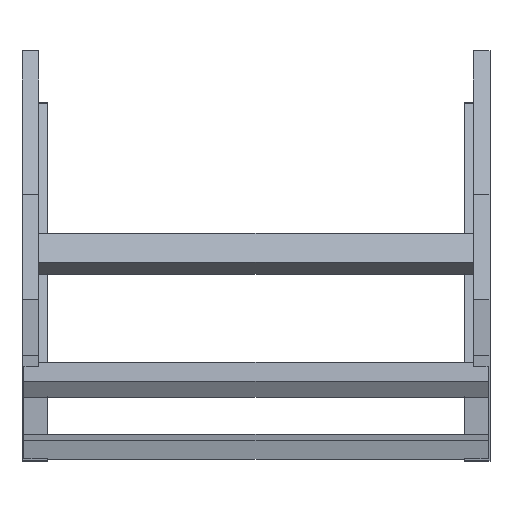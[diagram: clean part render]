
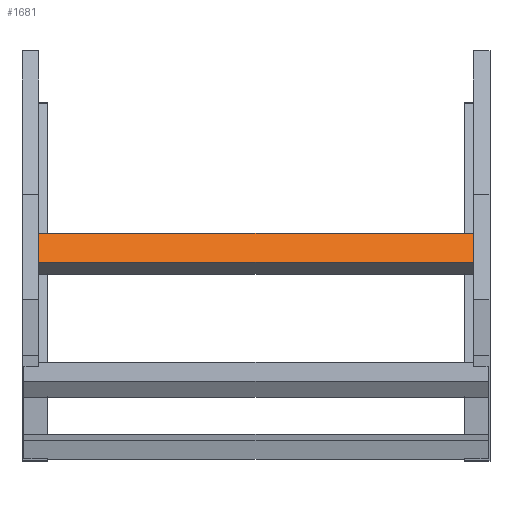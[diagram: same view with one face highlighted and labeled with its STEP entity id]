
A CAD part, top view. The second image highlights one B-rep face of the part: STEP entity #1681.
In plain terms, the highlighted planar face has unit normal (0, 0.643, 0.766) as drawn and (0, 1, 0) by its records, which use the part's own axes.
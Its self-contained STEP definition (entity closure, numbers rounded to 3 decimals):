
#11 = LINE ( 'NONE', #1463, #519 ) ;
#64 = DIRECTION ( 'NONE',  ( 0., -1., 0. ) ) ;
#134 = EDGE_CURVE ( 'NONE', #428, #823, #1045, .T. ) ;
#143 = CARTESIAN_POINT ( 'NONE',  ( 248., 20., 20.25 ) ) ;
#216 = CARTESIAN_POINT ( 'NONE',  ( 248., 20., 20.25 ) ) ;
#266 = DIRECTION ( 'NONE',  ( 0., 0., 1. ) ) ;
#273 = VECTOR ( 'NONE', #937, 1000. ) ;
#330 = DIRECTION ( 'NONE',  ( 0., 0., -1. ) ) ;
#385 = VECTOR ( 'NONE', #266, 1000. ) ;
#406 = EDGE_LOOP ( 'NONE', ( #1626, #1404, #947, #1428 ) ) ;
#428 = VERTEX_POINT ( 'NONE', #1173 ) ;
#446 = EDGE_CURVE ( 'NONE', #692, #428, #1424, .T. ) ;
#470 = FACE_OUTER_BOUND ( 'NONE', #406, .T. ) ;
#480 = AXIS2_PLACEMENT_3D ( 'NONE', #216, #64, #330 ) ;
#499 = VERTEX_POINT ( 'NONE', #143 ) ;
#510 = EDGE_CURVE ( 'NONE', #499, #823, #11, .T. ) ;
#519 = VECTOR ( 'NONE', #1211, 1000. ) ;
#692 = VERTEX_POINT ( 'NONE', #1106 ) ;
#823 = VERTEX_POINT ( 'NONE', #1548 ) ;
#857 = DIRECTION ( 'NONE',  ( -1., 0., 0. ) ) ;
#903 = CARTESIAN_POINT ( 'NONE',  ( -248., 20., 20.25 ) ) ;
#913 = LINE ( 'NONE', #1315, #385 ) ;
#937 = DIRECTION ( 'NONE',  ( 0., 0., 1. ) ) ;
#947 = ORIENTED_EDGE ( 'NONE', *, *, #1297, .F. ) ;
#1045 = LINE ( 'NONE', #903, #273 ) ;
#1106 = CARTESIAN_POINT ( 'NONE',  ( 248., 20., -20.25 ) ) ;
#1173 = CARTESIAN_POINT ( 'NONE',  ( -248., 20., -20.25 ) ) ;
#1211 = DIRECTION ( 'NONE',  ( -1., 0., 0. ) ) ;
#1252 = PLANE ( 'NONE',  #480 ) ;
#1297 = EDGE_CURVE ( 'NONE', #692, #499, #913, .T. ) ;
#1315 = CARTESIAN_POINT ( 'NONE',  ( 248., 20., 20.25 ) ) ;
#1404 = ORIENTED_EDGE ( 'NONE', *, *, #510, .F. ) ;
#1424 = LINE ( 'NONE', #1504, #1511 ) ;
#1428 = ORIENTED_EDGE ( 'NONE', *, *, #446, .T. ) ;
#1463 = CARTESIAN_POINT ( 'NONE',  ( 248., 20., 20.25 ) ) ;
#1504 = CARTESIAN_POINT ( 'NONE',  ( 248., 20., -20.25 ) ) ;
#1511 = VECTOR ( 'NONE', #857, 1000. ) ;
#1548 = CARTESIAN_POINT ( 'NONE',  ( -248., 20., 20.25 ) ) ;
#1626 = ORIENTED_EDGE ( 'NONE', *, *, #134, .T. ) ;
#1681 = ADVANCED_FACE ( 'NONE', ( #470 ), #1252, .F. ) ;
